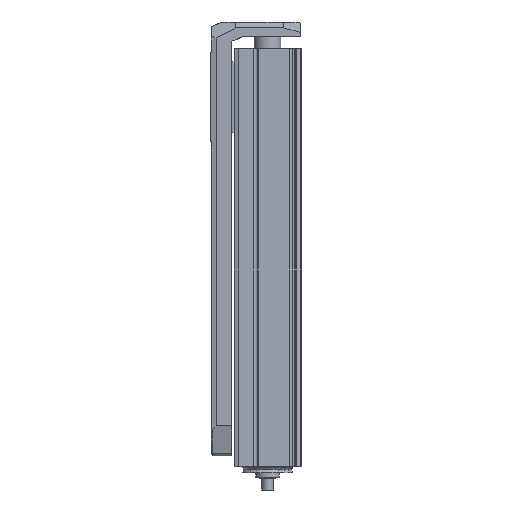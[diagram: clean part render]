
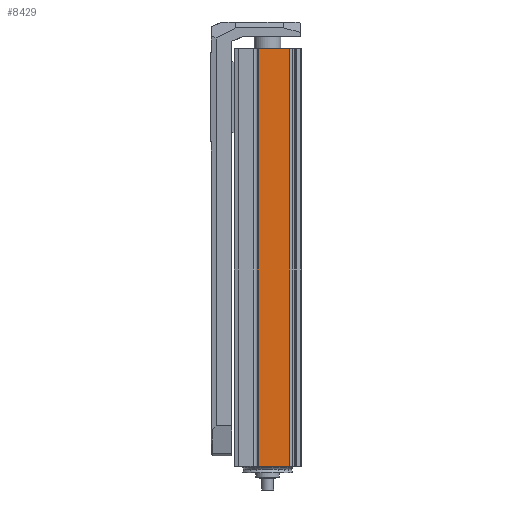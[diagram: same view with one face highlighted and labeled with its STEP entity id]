
A CAD part, left-side view. The second image highlights one B-rep face of the part: STEP entity #8429.
In plain terms, the highlighted planar face has unit normal (-1, 0, 0) as drawn and (0, 0, 1) by its records, which use the part's own axes.
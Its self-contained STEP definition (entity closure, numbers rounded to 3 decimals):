
#773=LINE('',#13561,#1303);
#789=LINE('',#13607,#1319);
#790=LINE('',#13611,#1320);
#791=LINE('',#13613,#1321);
#1303=VECTOR('',#10859,1000.);
#1319=VECTOR('',#10905,1000.);
#1320=VECTOR('',#10910,1000.);
#1321=VECTOR('',#10911,1000.);
#2647=ORIENTED_EDGE('',*,*,#4217,.T.);
#2648=ORIENTED_EDGE('',*,*,#4242,.F.);
#2649=ORIENTED_EDGE('',*,*,#4243,.F.);
#2650=ORIENTED_EDGE('',*,*,#4240,.T.);
#4217=EDGE_CURVE('',#5077,#5076,#773,.T.);
#4240=EDGE_CURVE('',#5092,#5077,#789,.T.);
#4242=EDGE_CURVE('',#5093,#5076,#790,.T.);
#4243=EDGE_CURVE('',#5092,#5093,#791,.T.);
#5076=VERTEX_POINT('',#13560);
#5077=VERTEX_POINT('',#13562);
#5092=VERTEX_POINT('',#13608);
#5093=VERTEX_POINT('',#13612);
#6009=EDGE_LOOP('',(#2647,#2648,#2649,#2650));
#6621=FACE_BOUND('',#6009,.T.);
#6947=PLANE('',#9134);
#8429=ADVANCED_FACE('',(#6621),#6947,.F.);
#9134=AXIS2_PLACEMENT_3D('',#13610,#10908,#10909);
#10859=DIRECTION('',(0.,-1.,0.));
#10905=DIRECTION('',(-1.,0.,0.));
#10908=DIRECTION('',(0.,0.,-1.));
#10909=DIRECTION('',(-1.,0.,0.));
#10910=DIRECTION('',(-1.,0.,0.));
#10911=DIRECTION('',(0.,-1.,0.));
#13560=CARTESIAN_POINT('',(0.,-6.3,22.5));
#13561=CARTESIAN_POINT('',(0.,14.82,22.5));
#13562=CARTESIAN_POINT('',(0.,14.82,22.5));
#13607=CARTESIAN_POINT('',(280.,14.82,22.5));
#13608=CARTESIAN_POINT('',(280.,14.82,22.5));
#13610=CARTESIAN_POINT('',(280.,14.82,22.5));
#13611=CARTESIAN_POINT('',(280.,-6.3,22.5));
#13612=CARTESIAN_POINT('',(280.,-6.3,22.5));
#13613=CARTESIAN_POINT('',(280.,14.82,22.5));
